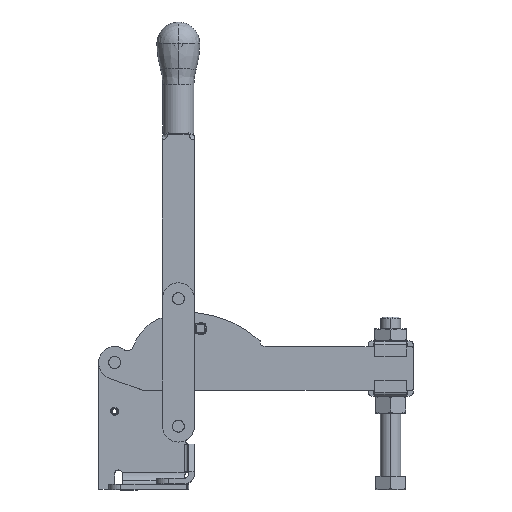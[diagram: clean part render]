
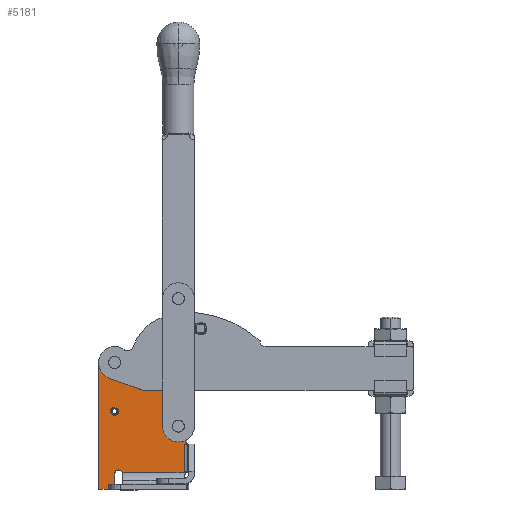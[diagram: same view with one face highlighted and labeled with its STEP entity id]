
A CAD part, top view. The second image highlights one B-rep face of the part: STEP entity #5181.
In plain terms, the highlighted planar face has unit normal (0, 0, 1).
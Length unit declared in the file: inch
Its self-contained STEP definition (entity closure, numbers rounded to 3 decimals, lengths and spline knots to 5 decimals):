
#3905=CARTESIAN_POINT('',(0.00088,4.02966,0.1793));
#3906=VERTEX_POINT('',#3905);
#3922=CARTESIAN_POINT('',(0.0,4.0,0.1793));
#3923=VERTEX_POINT('',#3922);
#3930=CARTESIAN_POINT('',(0.5,4.0,0.1793));
#3931=DIRECTION('',(0.0,0.0,-1.0));
#3932=DIRECTION('',(-0.998,0.059,0.0));
#3933=AXIS2_PLACEMENT_3D('',#3930,#3931,#3932);
#3934=CIRCLE('',#3933,0.5);
#3935=EDGE_CURVE('',#3923,#3906,#3934,.T.);
#4325=CARTESIAN_POINT('',(2.25,2.0,0.1793));
#4326=VERTEX_POINT('',#4325);
#4342=CARTESIAN_POINT('',(2.75,2.0,0.1793));
#4343=VERTEX_POINT('',#4342);
#4350=CARTESIAN_POINT('',(2.5,2.0,0.1793));
#4351=DIRECTION('',(0.0,0.0,-1.0));
#4352=DIRECTION('',(-1.0,0.0,0.0));
#4353=AXIS2_PLACEMENT_3D('',#4350,#4351,#4352);
#4354=CIRCLE('',#4353,0.25);
#4355=EDGE_CURVE('',#4326,#4343,#4354,.T.);
#4367=CARTESIAN_POINT('',(0.375,2.469,0.1793));
#4368=VERTEX_POINT('',#4367);
#4384=CARTESIAN_POINT('',(0.625,2.469,0.1793));
#4385=VERTEX_POINT('',#4384);
#4392=CARTESIAN_POINT('',(0.5,2.469,0.1793));
#4393=DIRECTION('',(0.0,0.0,-1.0));
#4394=DIRECTION('',(-1.0,0.0,0.0));
#4395=AXIS2_PLACEMENT_3D('',#4392,#4393,#4394);
#4396=CIRCLE('',#4395,0.125);
#4397=EDGE_CURVE('',#4368,#4385,#4396,.T.);
#4409=CARTESIAN_POINT('',(0.2815,4.0,0.1793));
#4410=VERTEX_POINT('',#4409);
#4426=CARTESIAN_POINT('',(0.7185,4.0,0.1793));
#4427=VERTEX_POINT('',#4426);
#4434=CARTESIAN_POINT('',(0.5,4.0,0.1793));
#4435=DIRECTION('',(0.0,0.0,-1.0));
#4436=DIRECTION('',(-1.0,0.0,0.0));
#4437=AXIS2_PLACEMENT_3D('',#4434,#4435,#4436);
#4438=CIRCLE('',#4437,0.2185);
#4439=EDGE_CURVE('',#4410,#4427,#4438,.T.);
#4491=CARTESIAN_POINT('',(2.297,2.875,0.1793));
#4492=VERTEX_POINT('',#4491);
#4500=CARTESIAN_POINT('',(2.703,2.875,0.1793));
#4501=VERTEX_POINT('',#4500);
#4508=CARTESIAN_POINT('',(2.5,2.875,0.1793));
#4509=DIRECTION('',(0.0,0.0,1.0));
#4510=DIRECTION('',(-1.0,0.0,0.0));
#4511=AXIS2_PLACEMENT_3D('',#4508,#4509,#4510);
#4512=CIRCLE('',#4511,0.203);
#4513=EDGE_CURVE('',#4501,#4492,#4512,.T.);
#4884=CARTESIAN_POINT('',(2.8207,0.5625,0.1793));
#4885=VERTEX_POINT('',#4884);
#4892=CARTESIAN_POINT('',(2.77617,0.5543,0.1793));
#4893=VERTEX_POINT('',#4892);
#4894=CARTESIAN_POINT('',(2.8207,0.4375,0.1793));
#4895=DIRECTION('',(0.0,0.0,-1.0));
#4896=DIRECTION('',(0.0,-1.0,0.0));
#4897=AXIS2_PLACEMENT_3D('',#4894,#4895,#4896);
#4898=CIRCLE('',#4897,0.125);
#4899=EDGE_CURVE('',#4893,#4885,#4898,.T.);
#4952=CARTESIAN_POINT('',(0.73759,0.5543,0.1793));
#4953=VERTEX_POINT('',#4952);
#4954=CARTESIAN_POINT('',(2.77617,0.5543,0.1793));
#4955=DIRECTION('',(-1.0,0.0,0.0));
#4956=VECTOR('',#4955,2.03858);
#4957=LINE('',#4954,#4956);
#4958=EDGE_CURVE('',#4893,#4953,#4957,.T.);
#5009=CARTESIAN_POINT('',(1.33018,1.85582,0.1793));
#5010=DIRECTION('',(0.0,0.0,1.0));
#5011=DIRECTION('',(1.0,0.0,0.0));
#5012=AXIS2_PLACEMENT_3D('',#5009,#5010,#5011);
#5013=PLANE('',#5012);
#5014=ORIENTED_EDGE('',*,*,#4958,.F.);
#5015=ORIENTED_EDGE('',*,*,#4899,.T.);
#5016=CARTESIAN_POINT('',(2.8207,0.563,0.1793));
#5017=VERTEX_POINT('',#5016);
#5018=CARTESIAN_POINT('',(2.8207,0.5625,0.1793));
#5019=DIRECTION('',(0.0,1.0,0.0));
#5020=VECTOR('',#5019,0.0005);
#5021=LINE('',#5018,#5020);
#5022=EDGE_CURVE('',#4885,#5017,#5021,.T.);
#5023=ORIENTED_EDGE('',*,*,#5022,.T.);
#5024=CARTESIAN_POINT('',(2.6957,0.563,0.1793));
#5025=VERTEX_POINT('',#5024);
#5026=CARTESIAN_POINT('',(2.8207,0.563,0.1793));
#5027=DIRECTION('',(-1.0,0.0,0.0));
#5028=VECTOR('',#5027,0.125);
#5029=LINE('',#5026,#5028);
#5030=EDGE_CURVE('',#5017,#5025,#5029,.T.);
#5031=ORIENTED_EDGE('',*,*,#5030,.T.);
#5032=CARTESIAN_POINT('',(2.6957,1.438,0.1793));
#5033=VERTEX_POINT('',#5032);
#5034=CARTESIAN_POINT('',(2.6957,1.438,0.1793));
#5035=DIRECTION('',(0.0,-1.0,0.0));
#5036=VECTOR('',#5035,0.875);
#5037=LINE('',#5034,#5036);
#5038=EDGE_CURVE('',#5033,#5025,#5037,.T.);
#5039=ORIENTED_EDGE('',*,*,#5038,.F.);
#5040=CARTESIAN_POINT('',(2.81596,1.438,0.1793));
#5041=VERTEX_POINT('',#5040);
#5042=CARTESIAN_POINT('',(2.6957,1.438,0.1793));
#5043=DIRECTION('',(1.0,0.0,0.0));
#5044=VECTOR('',#5043,0.12026);
#5045=LINE('',#5042,#5044);
#5046=EDGE_CURVE('',#5033,#5041,#5045,.T.);
#5047=ORIENTED_EDGE('',*,*,#5046,.T.);
#5048=CARTESIAN_POINT('',(2.77332,1.58131,0.1793));
#5049=VERTEX_POINT('',#5048);
#5050=CARTESIAN_POINT('',(2.81596,1.516,0.1793));
#5051=DIRECTION('',(0.0,0.0,1.0));
#5052=DIRECTION('',(-0.547,0.837,0.0));
#5053=AXIS2_PLACEMENT_3D('',#5050,#5051,#5052);
#5054=CIRCLE('',#5053,0.078);
#5055=EDGE_CURVE('',#5049,#5041,#5054,.T.);
#5056=ORIENTED_EDGE('',*,*,#5055,.F.);
#5057=CARTESIAN_POINT('',(3.,2.0,0.1793));
#5058=VERTEX_POINT('',#5057);
#5059=CARTESIAN_POINT('',(2.5,2.0,0.1793));
#5060=DIRECTION('',(0.0,0.0,-1.));
#5061=DIRECTION('',(-0.526,0.85,0.0));
#5062=AXIS2_PLACEMENT_3D('',#5059,#5060,#5061);
#5063=CIRCLE('',#5062,0.5);
#5064=EDGE_CURVE('',#5058,#5049,#5063,.T.);
#5065=ORIENTED_EDGE('',*,*,#5064,.F.);
#5066=CARTESIAN_POINT('',(3.,2.875,0.1793));
#5067=VERTEX_POINT('',#5066);
#5068=CARTESIAN_POINT('',(3.,2.875,0.1793));
#5069=DIRECTION('',(0.0,-1.0,0.0));
#5070=VECTOR('',#5069,0.875);
#5071=LINE('',#5068,#5070);
#5072=EDGE_CURVE('',#5067,#5058,#5071,.T.);
#5073=ORIENTED_EDGE('',*,*,#5072,.F.);
#5074=CARTESIAN_POINT('',(2.5,3.375,0.1793));
#5075=VERTEX_POINT('',#5074);
#5076=CARTESIAN_POINT('',(2.5,2.875,0.1793));
#5077=DIRECTION('',(0.0,0.0,-1.0));
#5078=DIRECTION('',(-1.0,0.0,0.0));
#5079=AXIS2_PLACEMENT_3D('',#5076,#5077,#5078);
#5080=CIRCLE('',#5079,0.5);
#5081=EDGE_CURVE('',#5075,#5067,#5080,.T.);
#5082=ORIENTED_EDGE('',*,*,#5081,.F.);
#5083=CARTESIAN_POINT('',(1.56013,3.375,0.1793));
#5084=VERTEX_POINT('',#5083);
#5085=CARTESIAN_POINT('',(1.56013,3.375,0.1793));
#5086=DIRECTION('',(1.0,0.0,0.0));
#5087=VECTOR('',#5086,0.93987);
#5088=LINE('',#5085,#5087);
#5089=EDGE_CURVE('',#5084,#5075,#5088,.T.);
#5090=ORIENTED_EDGE('',*,*,#5089,.F.);
#5091=CARTESIAN_POINT('',(0.99912,3.97034,0.1793));
#5092=VERTEX_POINT('',#5091);
#5093=CARTESIAN_POINT('',(1.56013,3.937,0.1793));
#5094=DIRECTION('',(0.0,0.0,1.));
#5095=DIRECTION('',(-0.998,0.059,0.0));
#5096=AXIS2_PLACEMENT_3D('',#5093,#5094,#5095);
#5097=CIRCLE('',#5096,0.562);
#5098=EDGE_CURVE('',#5092,#5084,#5097,.T.);
#5099=ORIENTED_EDGE('',*,*,#5098,.F.);
#5100=CARTESIAN_POINT('',(0.5,4.0,0.1793));
#5101=DIRECTION('',(0.0,0.0,-1.0));
#5102=DIRECTION('',(-0.998,0.059,0.0));
#5103=AXIS2_PLACEMENT_3D('',#5100,#5101,#5102);
#5104=CIRCLE('',#5103,0.5);
#5105=EDGE_CURVE('',#3906,#5092,#5104,.T.);
#5106=ORIENTED_EDGE('',*,*,#5105,.F.);
#5107=ORIENTED_EDGE('',*,*,#3935,.F.);
#5108=CARTESIAN_POINT('',(0.0,0.016,0.1793));
#5109=VERTEX_POINT('',#5108);
#5110=CARTESIAN_POINT('',(0.0,0.016,0.1793));
#5111=DIRECTION('',(0.0,1.0,0.0));
#5112=VECTOR('',#5111,3.984);
#5113=LINE('',#5110,#5112);
#5114=EDGE_CURVE('',#5109,#3923,#5113,.T.);
#5115=ORIENTED_EDGE('',*,*,#5114,.F.);
#5116=CARTESIAN_POINT('',(0.5,0.016,0.1793));
#5117=VERTEX_POINT('',#5116);
#5118=CARTESIAN_POINT('',(0.0,0.016,0.1793));
#5119=DIRECTION('',(1.0,0.0,0.0));
#5120=VECTOR('',#5119,0.5);
#5121=LINE('',#5118,#5120);
#5122=EDGE_CURVE('',#5109,#5117,#5121,.T.);
#5123=ORIENTED_EDGE('',*,*,#5122,.T.);
#5124=CARTESIAN_POINT('',(0.5,0.5,0.1793));
#5125=VERTEX_POINT('',#5124);
#5126=CARTESIAN_POINT('',(0.5,0.5,0.1793));
#5127=DIRECTION('',(0.0,-1.0,0.0));
#5128=VECTOR('',#5127,0.484);
#5129=LINE('',#5126,#5128);
#5130=EDGE_CURVE('',#5125,#5117,#5129,.T.);
#5131=ORIENTED_EDGE('',*,*,#5130,.F.);
#5132=CARTESIAN_POINT('',(0.625,0.5,0.1793));
#5133=DIRECTION('',(0.0,0.0,1.0));
#5134=DIRECTION('',(1.0,0.0,0.0));
#5135=AXIS2_PLACEMENT_3D('',#5132,#5133,#5134);
#5136=CIRCLE('',#5135,0.125);
#5137=EDGE_CURVE('',#4953,#5125,#5136,.T.);
#5138=ORIENTED_EDGE('',*,*,#5137,.F.);
#5139=EDGE_LOOP('',(#5014,#5015,#5023,#5031,#5039,#5047,#5056,#5065,#5073,#5082,#5090,#5099,#5106,#5107,#5115,#5123,#5131,#5138));
#5140=FACE_OUTER_BOUND('',#5139,.T.);
#5141=CARTESIAN_POINT('',(2.5,2.0,0.1793));
#5142=DIRECTION('',(0.0,0.0,-1.0));
#5143=DIRECTION('',(-1.0,0.0,0.0));
#5144=AXIS2_PLACEMENT_3D('',#5141,#5142,#5143);
#5145=CIRCLE('',#5144,0.25);
#5146=EDGE_CURVE('',#4343,#4326,#5145,.T.);
#5147=ORIENTED_EDGE('',*,*,#5146,.T.);
#5148=ORIENTED_EDGE('',*,*,#4355,.T.);
#5149=EDGE_LOOP('',(#5147,#5148));
#5150=FACE_BOUND('',#5149,.T.);
#5151=CARTESIAN_POINT('',(0.5,2.469,0.1793));
#5152=DIRECTION('',(0.0,0.0,-1.0));
#5153=DIRECTION('',(-1.0,0.0,0.0));
#5154=AXIS2_PLACEMENT_3D('',#5151,#5152,#5153);
#5155=CIRCLE('',#5154,0.125);
#5156=EDGE_CURVE('',#4385,#4368,#5155,.T.);
#5157=ORIENTED_EDGE('',*,*,#5156,.T.);
#5158=ORIENTED_EDGE('',*,*,#4397,.T.);
#5159=EDGE_LOOP('',(#5157,#5158));
#5160=FACE_BOUND('',#5159,.T.);
#5161=CARTESIAN_POINT('',(0.5,4.0,0.1793));
#5162=DIRECTION('',(0.0,0.0,-1.0));
#5163=DIRECTION('',(-1.0,0.0,0.0));
#5164=AXIS2_PLACEMENT_3D('',#5161,#5162,#5163);
#5165=CIRCLE('',#5164,0.2185);
#5166=EDGE_CURVE('',#4427,#4410,#5165,.T.);
#5167=ORIENTED_EDGE('',*,*,#5166,.T.);
#5168=ORIENTED_EDGE('',*,*,#4439,.T.);
#5169=EDGE_LOOP('',(#5167,#5168));
#5170=FACE_BOUND('',#5169,.T.);
#5171=ORIENTED_EDGE('',*,*,#4513,.F.);
#5172=CARTESIAN_POINT('',(2.5,2.875,0.1793));
#5173=DIRECTION('',(0.0,0.0,1.0));
#5174=DIRECTION('',(-1.0,0.0,0.0));
#5175=AXIS2_PLACEMENT_3D('',#5172,#5173,#5174);
#5176=CIRCLE('',#5175,0.203);
#5177=EDGE_CURVE('',#4492,#4501,#5176,.T.);
#5178=ORIENTED_EDGE('',*,*,#5177,.F.);
#5179=EDGE_LOOP('',(#5171,#5178));
#5180=FACE_BOUND('',#5179,.T.);
#5181=ADVANCED_FACE('',(#5140,#5150,#5160,#5170,#5180),#5013,.T.);
